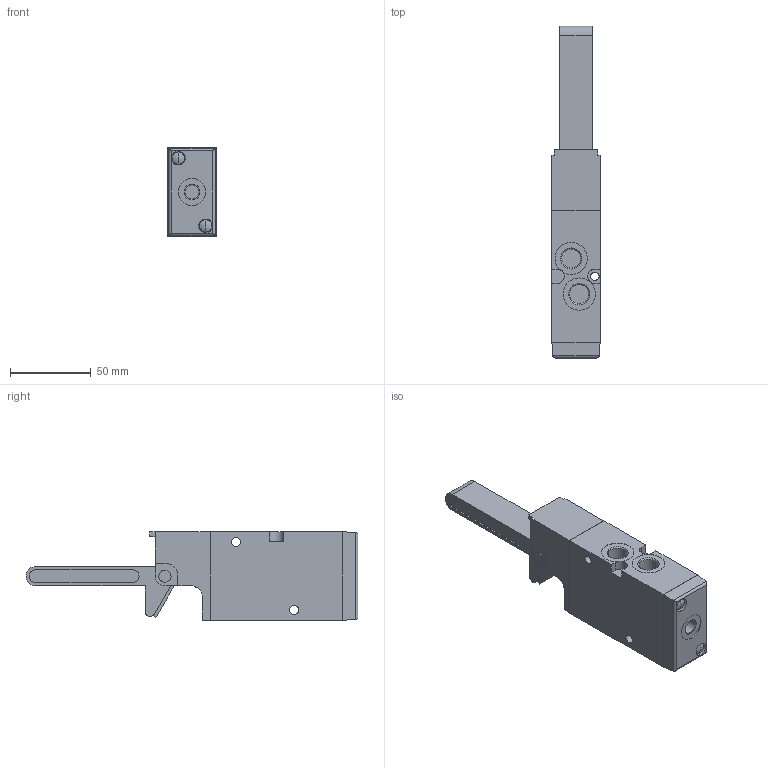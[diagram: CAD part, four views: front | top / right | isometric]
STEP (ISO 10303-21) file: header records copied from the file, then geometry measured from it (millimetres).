
FILE_DESCRIPTION((''),'2;1');
FILE_NAME('5634630190_ASM','2018-07-19T',('tng2hc'),(''),'CREO PARAMETRIC BY PTC INC, 2016260','CREO PARAMETRIC BY PTC INC, 2016260','');
FILE_SCHEMA(('CONFIG_CONTROL_DESIGN'));
Length unit declared in the file: millimetre
Products named in the file (3): 5634630190-A; 5634630190-C; 5634630190_ASM
Assembly tree (2 placements, depth 2):
  5634630190_ASM
    5634630190-A
    5634630190-C
Bounding box: 30 x 205.5 x 55 mm (x, y, z)
Volume: 182494.1 mm3; surface area: 37904.2 mm2
Topology: 2 solids, 2 shells, 162 faces, 388 edges, 247 vertices
Faces by surface type: plane 74, cylinder 66, cone 16, sphere 6
Entity records: 4925 total; most frequent: CARTESIAN_POINT 924, DIRECTION 864, ORIENTED_EDGE 764, EDGE_CURVE 382, AXIS2_PLACEMENT_3D 319, VERTEX_POINT 247, VECTOR 226, LINE 226
